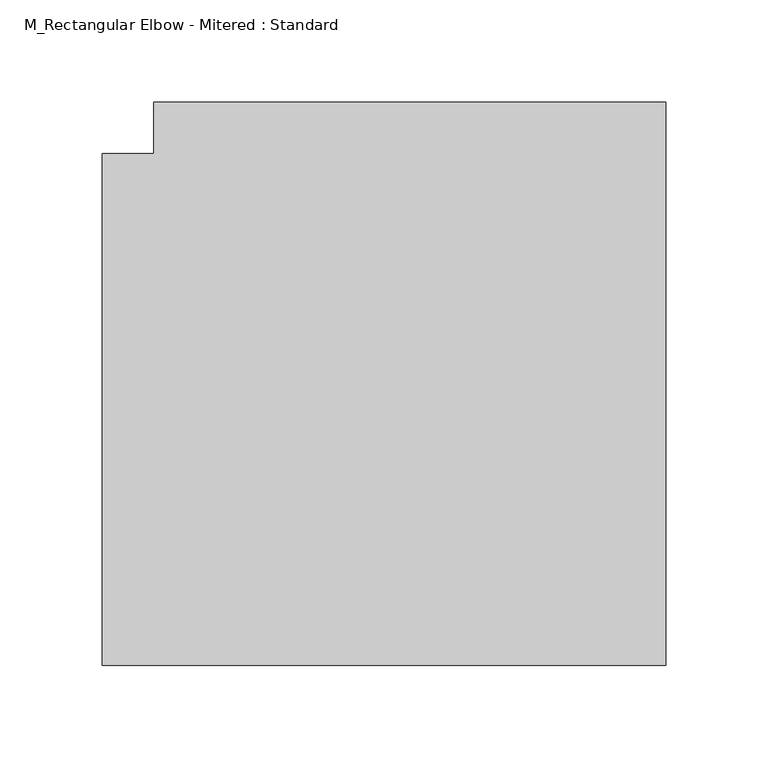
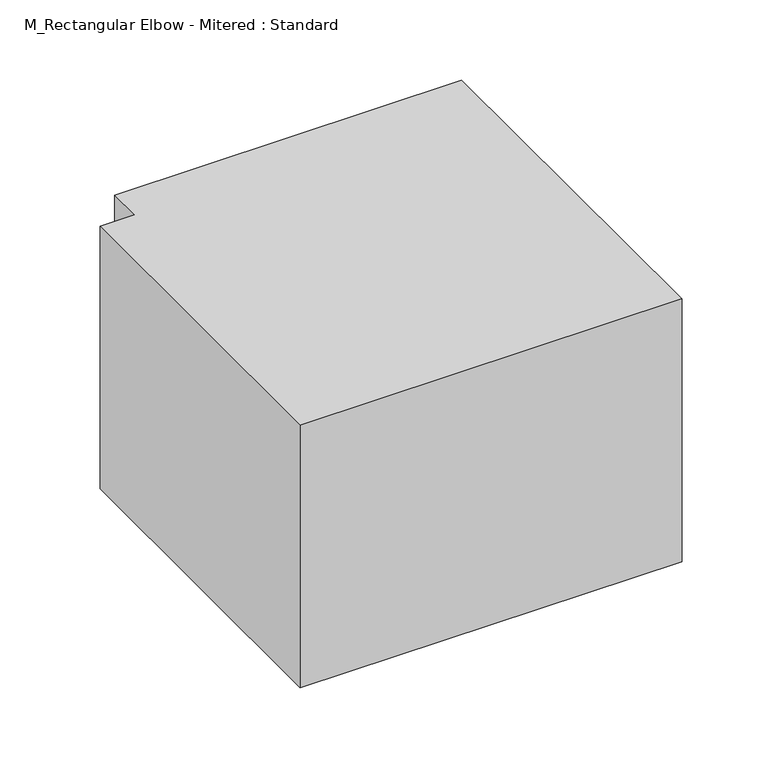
"""IFC4 building model written with IfcOpenShell, lengths in millimetres: duct fitting geometry, M_Rectangular Elbow - Mitered : Standard."""

from ifc_helpers import new_model, si_unit, frame, origin, place, context, project, spatial, polyline, outline, extrude, source, transform, mapped, element, save


def m_rectangular_elbow_mitered_standard_b734d3a4(model_context):
    return source(origin(), model_context, "Body", "SweptSolid", [
        extrude(outline(polyline([(-150.0, -125.0), (-150.0, 125.0), (-125.0, 125.0), (-125.0, 150.0), (125.0, 150.0), (125.0, -125.0), (-150.0, -125.0)])), frame((0.0, 0.0, -100.0), z_axis=(0.0, 0.0, 1.0), x_axis=(1.0, 0.0, 0.0)), (0.0, 0.0, 1.0), 200.0),
        extrude(outline(polyline([(-150.0, -125.0), (-150.0, 125.0), (-125.0, 125.0), (-125.0, 150.0), (125.0, 150.0), (125.0, -125.0), (-150.0, -125.0)])), frame((0.0, 0.0, -100.0), z_axis=(0.0, 0.0, 1.0), x_axis=(1.0, 0.0, 0.0)), (0.0, 0.0, 1.0), 200.0),
        extrude(outline(polyline([(-150.0, -125.0), (-150.0, 125.0), (-125.0, 125.0), (-125.0, 150.0), (125.0, 150.0), (125.0, -125.0), (-150.0, -125.0)])), frame((0.0, 0.0, -100.0), z_axis=(0.0, 0.0, 1.0), x_axis=(1.0, 0.0, 0.0)), (0.0, 0.0, 1.0), 200.0),
    ])


if __name__ == "__main__":
    model = new_model("IFC4")
    model_context = context("Model", 3, world=origin())
    ifc_project = project(units=[si_unit("LENGTHUNIT", "METRE", prefix="MILLI")], contexts=[model_context])
    site = spatial("IfcSite", under=ifc_project)
    building = spatial("IfcBuilding", under=site)
    placement = place(None, origin())
    m_rectangular_elbow_mitered_standard_shape = m_rectangular_elbow_mitered_standard_b734d3a4(model_context)
    element("IfcDuctFitting", 1, ObjectType="M_Rectangular Elbow - Mitered : Standard", at=placement, inside=building, context=model_context, shape_type="MappedRepresentation", body=[
        mapped(m_rectangular_elbow_mitered_standard_shape, transform((0.0, 0.0, 0.0), x_axis=(1.0, 0.0, 0.0), y_axis=(0.0, 1.0, 0.0), z_axis=(0.0, 0.0, 1.0))),
    ])
    save(model, "model.ifc")
